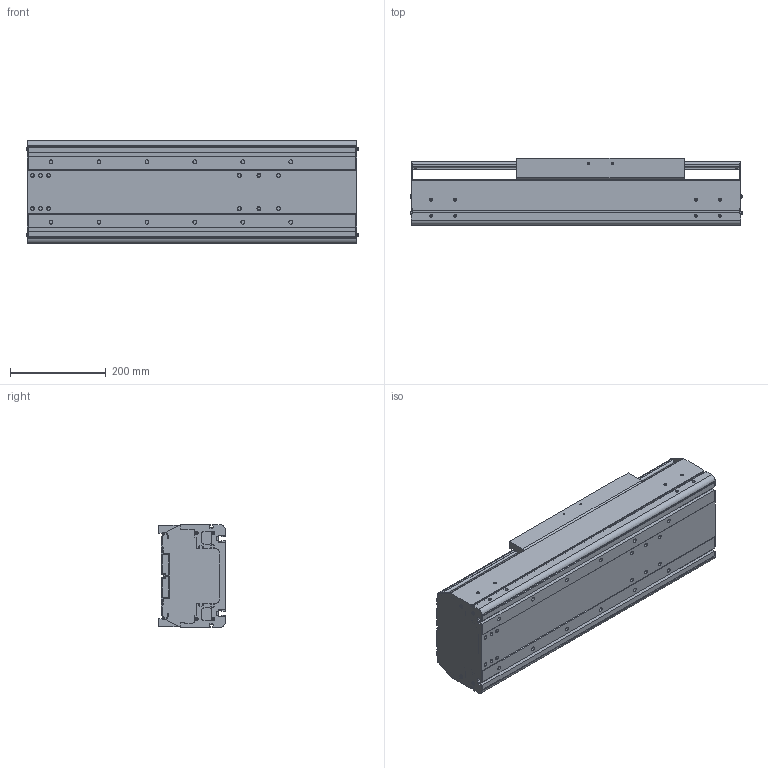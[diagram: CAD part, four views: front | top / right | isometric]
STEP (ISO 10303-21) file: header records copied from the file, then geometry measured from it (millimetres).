
FILE_DESCRIPTION((''),'2;1');
FILE_NAME('BE60J-ST-L_N-15_IGS_PRT','2017-06-18T',(' '),(''),'PRO/ENGINEER BY PARAMETRIC TECHNOLOGY CORPORATION, 2015030','PRO/ENGINEER BY PARAMETRIC TECHNOLOGY CORPORATION, 2015030','');
FILE_SCHEMA(('CONFIG_CONTROL_DESIGN'));
Length unit declared in the file: millimetre
Products named in the file (1): BE60J-ST-L_N-15_IGS_PRT
Bounding box: 692.4 x 140 x 214 mm (x, y, z)
Volume: 6245074.4 mm3; surface area: 1676404.7 mm2
Topology: 2 solids, 112 shells, 1321 faces, 3590 edges, 2381 vertices
Faces by surface type: cylinder 632, plane 561, cone 80, torus 24, sphere 24
Entity records: 43151 total; most frequent: CARTESIAN_POINT 9246, DIRECTION 7202, ORIENTED_EDGE 6672, EDGE_CURVE 3532, AXIS2_PLACEMENT_3D 2658, VERTEX_POINT 2380, VECTOR 1886, LINE 1886
